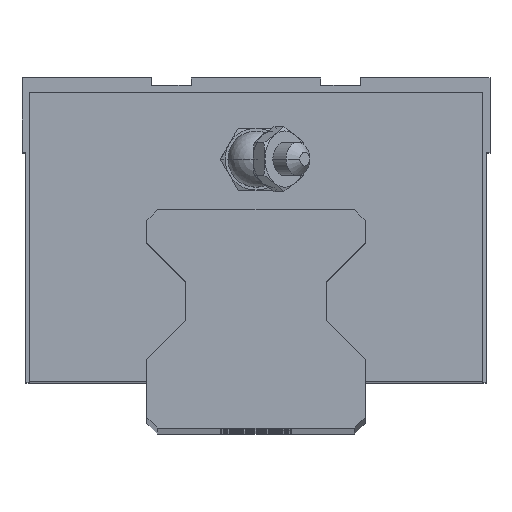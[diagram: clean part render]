
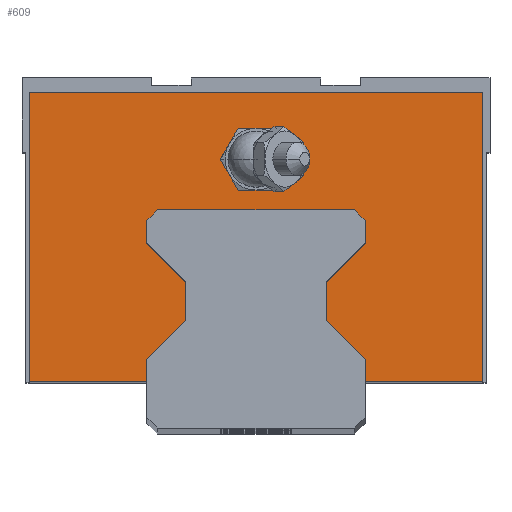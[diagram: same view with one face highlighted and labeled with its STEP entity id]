
A CAD part, top view. The second image highlights one B-rep face of the part: STEP entity #609.
In plain terms, the highlighted planar face has unit normal (0, 0, 1).
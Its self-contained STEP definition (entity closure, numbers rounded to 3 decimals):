
#609=ADVANCED_FACE('',(#1326,#1327),#1328,.T.);
#1326=FACE_BOUND('',#2186,.T.);
#1327=FACE_OUTER_BOUND('',#2187,.T.);
#1328=PLANE('',#2188);
#2186=EDGE_LOOP('',(#3884,#3885));
#2187=EDGE_LOOP('',(#3886,#3887,#3888,#3889,#3890,#3891,#3892,#3893,#3894,#3895,#3896,#3897,#3898,#3899,#3900,#3901,#3902,#3903));
#2188=AXIS2_PLACEMENT_3D('',#3904,#3905,#3906);
#3884=ORIENTED_EDGE('',*,*,#5553,.T.);
#3885=ORIENTED_EDGE('',*,*,#5468,.T.);
#3886=ORIENTED_EDGE('',*,*,#5258,.F.);
#3887=ORIENTED_EDGE('',*,*,#5137,.F.);
#3888=ORIENTED_EDGE('',*,*,#5591,.F.);
#3889=ORIENTED_EDGE('',*,*,#5453,.F.);
#3890=ORIENTED_EDGE('',*,*,#5592,.F.);
#3891=ORIENTED_EDGE('',*,*,#5593,.F.);
#3892=ORIENTED_EDGE('',*,*,#5538,.F.);
#3893=ORIENTED_EDGE('',*,*,#5594,.F.);
#3894=ORIENTED_EDGE('',*,*,#5595,.F.);
#3895=ORIENTED_EDGE('',*,*,#5372,.F.);
#3896=ORIENTED_EDGE('',*,*,#5000,.F.);
#3897=ORIENTED_EDGE('',*,*,#5099,.F.);
#3898=ORIENTED_EDGE('',*,*,#5274,.F.);
#3899=ORIENTED_EDGE('',*,*,#5567,.F.);
#3900=ORIENTED_EDGE('',*,*,#5376,.F.);
#3901=ORIENTED_EDGE('',*,*,#5388,.F.);
#3902=ORIENTED_EDGE('',*,*,#5262,.F.);
#3903=ORIENTED_EDGE('',*,*,#5596,.F.);
#3904=CARTESIAN_POINT('',(0.0,25.417,-45.1));
#3905=DIRECTION('',(0.,0.,1.0));
#3906=DIRECTION('',(1.0,0.0,0.));
#5000=EDGE_CURVE('',#5974,#5977,#5978,.T.);
#5099=EDGE_CURVE('',#6151,#5974,#6153,.T.);
#5137=EDGE_CURVE('',#6215,#6217,#6218,.T.);
#5258=EDGE_CURVE('',#6217,#6418,#6419,.T.);
#5262=EDGE_CURVE('',#6422,#6424,#6425,.T.);
#5274=EDGE_CURVE('',#6441,#6151,#6443,.T.);
#5372=EDGE_CURVE('',#5977,#6590,#6591,.T.);
#5376=EDGE_CURVE('',#6594,#6596,#6597,.T.);
#5388=EDGE_CURVE('',#6424,#6594,#6612,.T.);
#5453=EDGE_CURVE('',#6696,#6698,#6699,.T.);
#5468=EDGE_CURVE('',#6720,#6718,#6721,.T.);
#5538=EDGE_CURVE('',#6818,#6820,#6821,.T.);
#5553=EDGE_CURVE('',#6718,#6720,#6841,.T.);
#5567=EDGE_CURVE('',#6596,#6441,#6861,.T.);
#5591=EDGE_CURVE('',#6698,#6215,#6896,.T.);
#5592=EDGE_CURVE('',#6897,#6696,#6898,.T.);
#5593=EDGE_CURVE('',#6820,#6897,#6899,.T.);
#5594=EDGE_CURVE('',#6900,#6818,#6901,.T.);
#5595=EDGE_CURVE('',#6590,#6900,#6902,.T.);
#5596=EDGE_CURVE('',#6418,#6422,#6903,.T.);
#5974=VERTEX_POINT('',#7434);
#5977=VERTEX_POINT('',#7438);
#5978=LINE('',#7439,#7440);
#6151=VERTEX_POINT('',#7740);
#6153=LINE('',#7743,#7744);
#6215=VERTEX_POINT('',#7817);
#6217=VERTEX_POINT('',#7820);
#6218=LINE('',#7821,#7822);
#6418=VERTEX_POINT('',#8134);
#6419=LINE('',#8135,#8136);
#6422=VERTEX_POINT('',#8140);
#6424=VERTEX_POINT('',#8143);
#6425=LINE('',#8144,#8145);
#6441=VERTEX_POINT('',#8162);
#6443=LINE('',#8165,#8166);
#6590=VERTEX_POINT('',#8403);
#6591=LINE('',#8404,#8405);
#6594=VERTEX_POINT('',#8409);
#6596=VERTEX_POINT('',#8412);
#6597=LINE('',#8413,#8414);
#6612=LINE('',#8435,#8436);
#6696=VERTEX_POINT('',#8597);
#6698=VERTEX_POINT('',#8600);
#6699=LINE('',#8601,#8602);
#6718=VERTEX_POINT('',#8628);
#6720=VERTEX_POINT('',#8631);
#6721=CIRCLE('',#8632,3.6);
#6818=VERTEX_POINT('',#8781);
#6820=VERTEX_POINT('',#8784);
#6821=LINE('',#8785,#8786);
#6841=CIRCLE('',#8844,3.6);
#6861=LINE('',#8870,#8871);
#6896=LINE('',#8913,#8914);
#6897=VERTEX_POINT('',#8915);
#6898=LINE('',#8916,#8917);
#6899=LINE('',#8918,#8919);
#6900=VERTEX_POINT('',#8920);
#6901=LINE('',#8921,#8922);
#6902=LINE('',#8923,#8924);
#6903=LINE('',#8925,#8926);
#7434=CARTESIAN_POINT('',(-14.0,23.8,-45.1));
#7438=CARTESIAN_POINT('',(-9.0,18.8,-45.1));
#7439=CARTESIAN_POINT('',(-14.0,23.8,-45.1));
#7440=VECTOR('',#9481,1000.0);
#7740=CARTESIAN_POINT('',(-14.0,26.6,-45.1));
#7743=CARTESIAN_POINT('',(-14.0,26.6,-45.1));
#7744=VECTOR('',#9612,1000.0);
#7817=CARTESIAN_POINT('',(14.0,6.0,-45.1));
#7820=CARTESIAN_POINT('',(14.0,8.8,-45.1));
#7821=CARTESIAN_POINT('',(14.0,6.0,-45.1));
#7822=VECTOR('',#9679,1000.0);
#8134=CARTESIAN_POINT('',(9.0,13.8,-45.1));
#8135=CARTESIAN_POINT('',(14.0,8.8,-45.1));
#8136=VECTOR('',#9830,1000.0);
#8140=CARTESIAN_POINT('',(9.0,18.8,-45.1));
#8143=CARTESIAN_POINT('',(14.0,23.8,-45.1));
#8144=CARTESIAN_POINT('',(9.0,18.8,-45.1));
#8145=VECTOR('',#9833,1000.0);
#8162=CARTESIAN_POINT('',(-12.6,28.0,-45.1));
#8165=CARTESIAN_POINT('',(-12.6,28.0,-45.1));
#8166=VECTOR('',#9857,1000.0);
#8403=CARTESIAN_POINT('',(-9.0,13.8,-45.1));
#8404=CARTESIAN_POINT('',(-9.0,18.8,-45.1));
#8405=VECTOR('',#9982,1000.0);
#8409=CARTESIAN_POINT('',(14.0,26.6,-45.1));
#8412=CARTESIAN_POINT('',(12.6,28.0,-45.1));
#8413=CARTESIAN_POINT('',(14.0,26.6,-45.1));
#8414=VECTOR('',#9985,1000.0);
#8435=CARTESIAN_POINT('',(14.0,23.8,-45.1));
#8436=VECTOR('',#9995,1000.0);
#8597=CARTESIAN_POINT('',(29.05,43.1,-45.1));
#8600=CARTESIAN_POINT('',(29.05,6.0,-45.1));
#8601=CARTESIAN_POINT('',(29.05,43.1,-45.1));
#8602=VECTOR('',#10064,1000.0);
#8628=CARTESIAN_POINT('',(3.6,34.55,-45.1));
#8631=CARTESIAN_POINT('',(-3.6,34.55,-45.1));
#8632=AXIS2_PLACEMENT_3D('',#10079,#10080,#10081);
#8781=CARTESIAN_POINT('',(-14.0,6.0,-45.1));
#8784=CARTESIAN_POINT('',(-29.05,6.0,-45.1));
#8785=CARTESIAN_POINT('',(-29.05,6.0,-45.1));
#8786=VECTOR('',#10154,1000.0);
#8844=AXIS2_PLACEMENT_3D('',#10163,#10164,#10165);
#8870=CARTESIAN_POINT('',(12.6,28.0,-45.1));
#8871=VECTOR('',#10181,1000.0);
#8913=CARTESIAN_POINT('',(29.05,6.0,-45.1));
#8914=VECTOR('',#10213,1000.0);
#8915=CARTESIAN_POINT('',(-29.05,43.1,-45.1));
#8916=CARTESIAN_POINT('',(-29.05,43.1,-45.1));
#8917=VECTOR('',#10214,1000.0);
#8918=CARTESIAN_POINT('',(-29.05,6.0,-45.1));
#8919=VECTOR('',#10215,1000.0);
#8920=CARTESIAN_POINT('',(-14.0,8.8,-45.1));
#8921=CARTESIAN_POINT('',(-14.0,8.8,-45.1));
#8922=VECTOR('',#10216,1000.0);
#8923=CARTESIAN_POINT('',(-9.0,13.8,-45.1));
#8924=VECTOR('',#10217,1000.0);
#8925=CARTESIAN_POINT('',(9.0,13.8,-45.1));
#8926=VECTOR('',#10218,1000.0);
#9481=DIRECTION('',(0.707,-0.707,0.0));
#9612=DIRECTION('',(0.0,-1.0,0.0));
#9679=DIRECTION('',(0.0,1.0,0.0));
#9830=DIRECTION('',(-0.707,0.707,0.0));
#9833=DIRECTION('',(0.707,0.707,0.0));
#9857=DIRECTION('',(-0.707,-0.707,0.0));
#9982=DIRECTION('',(0.0,-1.0,0.0));
#9985=DIRECTION('',(-0.707,0.707,0.0));
#9995=DIRECTION('',(0.0,1.0,0.0));
#10064=DIRECTION('',(0.0,-1.0,0.0));
#10079=CARTESIAN_POINT('',(0.0,34.55,-45.1));
#10080=DIRECTION('',(0.,0.,-1.0));
#10081=DIRECTION('',(1.0,0.,0.));
#10154=DIRECTION('',(-1.0,-0.0,-0.0));
#10163=CARTESIAN_POINT('',(0.0,34.55,-45.1));
#10164=DIRECTION('',(0.,0.,-1.0));
#10165=DIRECTION('',(1.0,0.,0.));
#10181=DIRECTION('',(-1.0,0.0,0.0));
#10213=DIRECTION('',(-1.0,0.0,0.0));
#10214=DIRECTION('',(1.0,0.0,0.0));
#10215=DIRECTION('',(0.0,1.0,0.0));
#10216=DIRECTION('',(0.0,-1.0,0.0));
#10217=DIRECTION('',(-0.707,-0.707,0.0));
#10218=DIRECTION('',(0.0,1.0,0.0));
